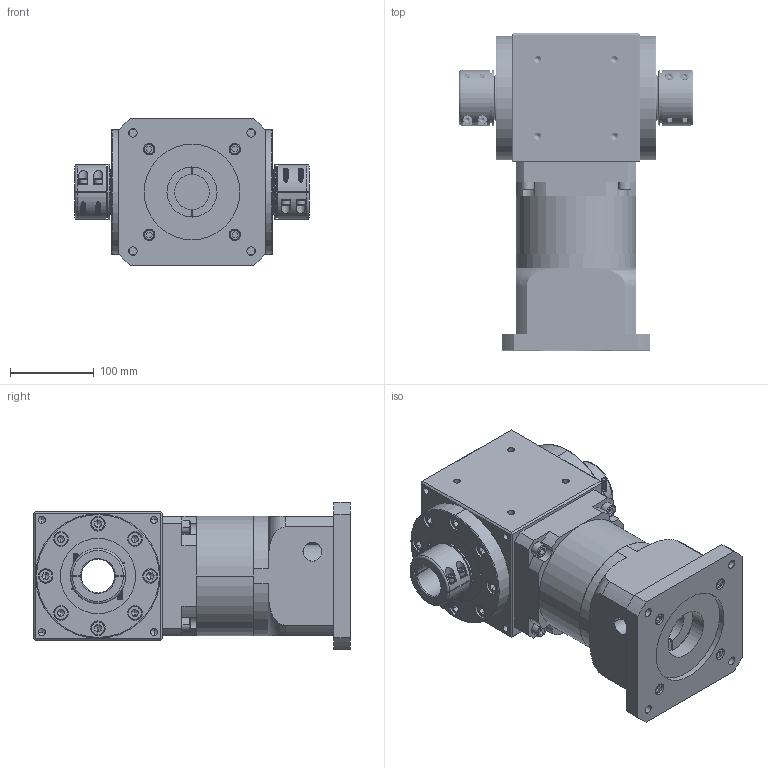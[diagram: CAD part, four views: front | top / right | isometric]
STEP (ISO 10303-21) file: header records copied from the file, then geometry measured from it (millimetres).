
FILE_DESCRIPTION (( 'STEP AP214' ), '1' );
FILE_NAME ('RAH150-L1-XX-D-42-114.3-200-M12_2019.STEP', '2019-03-27T09:59:42', ( 'Y' ), ( 'NCU' ), 'SwSTEP 2.0', 'SolidWorks 2016', '' );
FILE_SCHEMA (( 'AUTOMOTIVE_DESIGN' ));
Length unit declared in the file: millimetre
Products named in the file (1): RAH150-L1-XX-D-42-114.3-200-M12_2019
Bounding box: 280 x 379 x 176 mm (x, y, z)
Volume: 8015948.9 mm3; surface area: 576677 mm2
Topology: 2 solids, 36 shells, 1730 faces, 4420 edges, 2692 vertices
Faces by surface type: cylinder 702, plane 696, cone 166, bspline 90, torus 76
Entity records: 172168 total; most frequent: CARTESIAN_POINT 131218, ORIENTED_EDGE 8648, DIRECTION 7722, EDGE_CURVE 4324, AXIS2_PLACEMENT_3D 2917, VERTEX_POINT 2692, EDGE_LOOP 1930, VECTOR 1888
